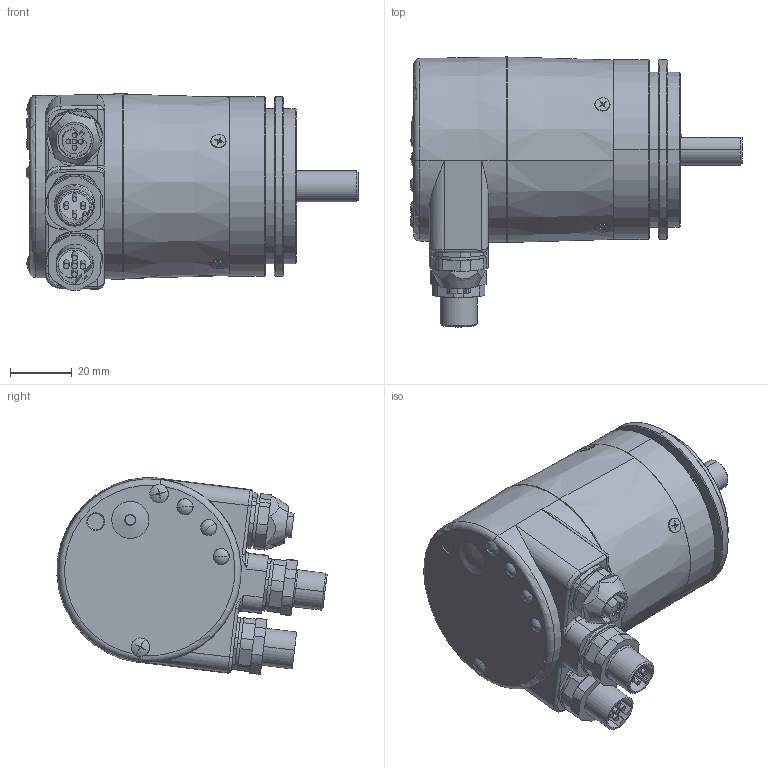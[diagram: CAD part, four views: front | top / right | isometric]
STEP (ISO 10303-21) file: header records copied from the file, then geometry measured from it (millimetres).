
FILE_DESCRIPTION (( 'STEP AP214' ), '1' );
FILE_NAME ('5868.2232.XXXX.STEP', '2008-06-13T05:41:29', ( 'admin' ), ( 'Fritz Kübler GmbH' ), 'SwSTEP 2.0', 'SolidWorks 2007', '' );
FILE_SCHEMA (( 'AUTOMOTIVE_DESIGN' ));
Length unit declared in the file: millimetre
Products named in the file (1): 5868.2232.XXXX
Bounding box: 107.2 x 87.2 x 63.55 mm (x, y, z)
Surface area: 31566.7 mm2 (no closed solid volume)
Topology: 0 solids, 26 shells, 454 faces, 1171 edges, 750 vertices
Faces by surface type: plane 202, cylinder 173, cone 44, torus 15, sphere 11, bspline 9
Entity records: 19398 total; most frequent: CARTESIAN_POINT 3179, DIRECTION 2499, ORIENTED_EDGE 2141, EDGE_CURVE 1166, AXIS2_PLACEMENT_3D 932, VERTEX_POINT 750, VECTOR 635, LINE 635
